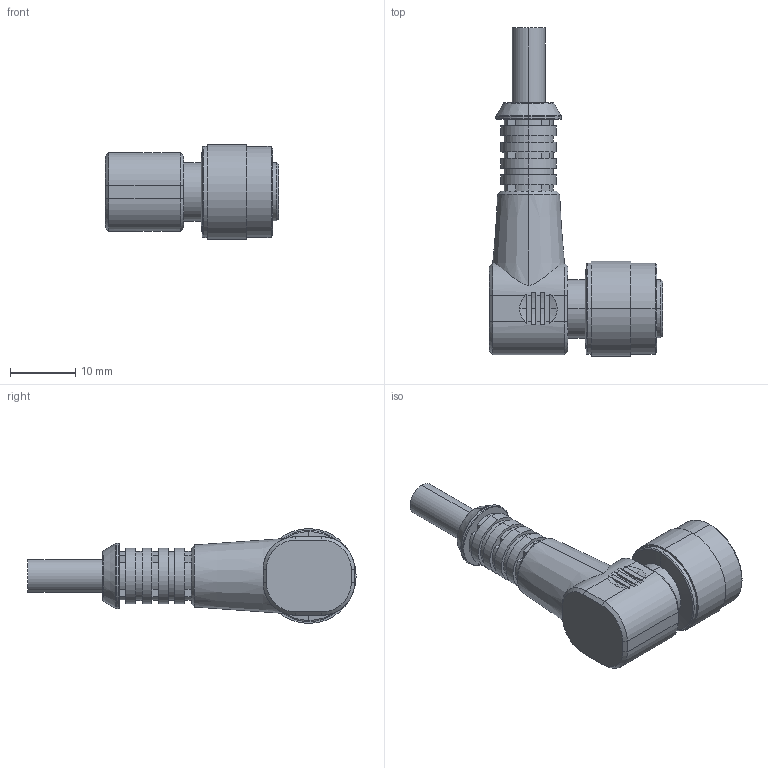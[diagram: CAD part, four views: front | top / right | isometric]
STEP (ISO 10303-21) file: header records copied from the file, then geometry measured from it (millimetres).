
FILE_DESCRIPTION (( 'STEP AP203' ), '1' );
FILE_NAME ('KSTA M12.STEP', '2020-10-16T07:23:06', ( '' ), ( '' ), 'SwSTEP 2.0', 'SolidWorks 2020', '' );
FILE_SCHEMA (( 'CONFIG_CONTROL_DESIGN' ));
Length unit declared in the file: millimetre
Products named in the file (1): KSTA M12
Bounding box: 26.5 x 50.25 x 14.5 mm (x, y, z)
Volume: 5111.8 mm3; surface area: 3355.6 mm2
Topology: 1 solids, 1 shells, 216 faces, 528 edges, 335 vertices
Faces by surface type: plane 93, cylinder 73, cone 34, torus 8, sphere 8
Entity records: 6669 total; most frequent: CARTESIAN_POINT 1314, DIRECTION 1192, ORIENTED_EDGE 1056, EDGE_CURVE 528, AXIS2_PLACEMENT_3D 461, VERTEX_POINT 335, LINE 270, VECTOR 270
